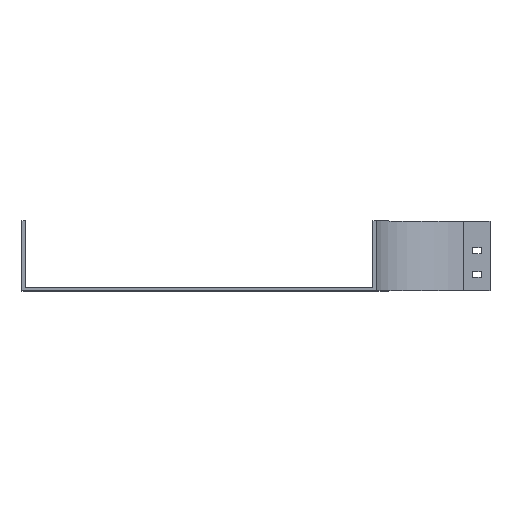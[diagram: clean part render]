
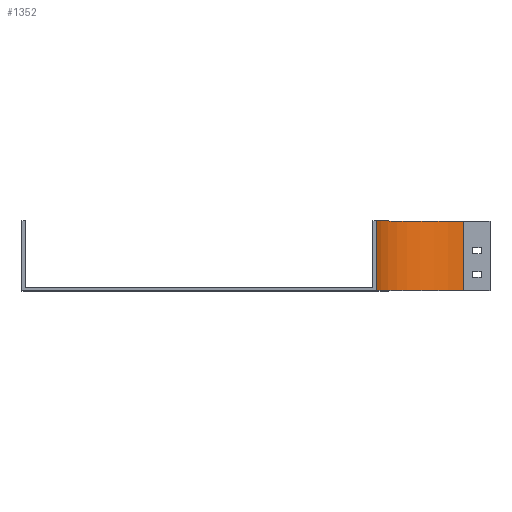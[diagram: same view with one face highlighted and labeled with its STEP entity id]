
A CAD part, top view. The second image highlights one B-rep face of the part: STEP entity #1352.
In plain terms, the highlighted cylindrical face has radius 100 mm (diameter 200 mm), a partial arc.
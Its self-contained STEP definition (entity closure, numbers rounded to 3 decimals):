
#102 = DIRECTION ( 'NONE',  ( 0., 0., -1. ) ) ;
#115 = EDGE_CURVE ( 'NONE', #2276, #1049, #1825, .T. ) ;
#506 = ORIENTED_EDGE ( 'NONE', *, *, #115, .T. ) ;
#507 = CARTESIAN_POINT ( 'NONE',  ( 0., 79., -100. ) ) ;
#517 = CYLINDRICAL_SURFACE ( 'NONE', #1932, 100. ) ;
#527 = CARTESIAN_POINT ( 'NONE',  ( 0., 79., 0. ) ) ;
#566 = CARTESIAN_POINT ( 'NONE',  ( -100., 79., 0. ) ) ;
#679 = ORIENTED_EDGE ( 'NONE', *, *, #1674, .F. ) ;
#694 = CIRCLE ( 'NONE', #2601, 100. ) ;
#775 = EDGE_CURVE ( 'NONE', #2276, #1990, #2478, .T. ) ;
#805 = LINE ( 'NONE', #1623, #2239 ) ;
#907 = CARTESIAN_POINT ( 'NONE',  ( -100., 0., 0. ) ) ;
#964 = DIRECTION ( 'NONE',  ( 0., 0., -1. ) ) ;
#1001 = DIRECTION ( 'NONE',  ( 0., -1., 0. ) ) ;
#1017 = ORIENTED_EDGE ( 'NONE', *, *, #1355, .T. ) ;
#1049 = VERTEX_POINT ( 'NONE', #907 ) ;
#1175 = ORIENTED_EDGE ( 'NONE', *, *, #775, .F. ) ;
#1238 = CARTESIAN_POINT ( 'NONE',  ( 0., 0., -100. ) ) ;
#1352 = ADVANCED_FACE ( 'NONE', ( #2447 ), #517, .F. ) ;
#1355 = EDGE_CURVE ( 'NONE', #1049, #1618, #694, .T. ) ;
#1364 = DIRECTION ( 'NONE',  ( 0., -1., 0. ) ) ;
#1390 = DIRECTION ( 'NONE',  ( 0., -1., 0. ) ) ;
#1414 = DIRECTION ( 'NONE',  ( 0., -1., 0. ) ) ;
#1591 = EDGE_LOOP ( 'NONE', ( #1017, #679, #1175, #506 ) ) ;
#1618 = VERTEX_POINT ( 'NONE', #1238 ) ;
#1623 = CARTESIAN_POINT ( 'NONE',  ( 0., 79., -100. ) ) ;
#1674 = EDGE_CURVE ( 'NONE', #1990, #1618, #805, .T. ) ;
#1776 = CARTESIAN_POINT ( 'NONE',  ( 0., 79., 0. ) ) ;
#1817 = DIRECTION ( 'NONE',  ( 0., 0., -1. ) ) ;
#1825 = LINE ( 'NONE', #566, #2635 ) ;
#1932 = AXIS2_PLACEMENT_3D ( 'NONE', #1776, #1364, #964 ) ;
#1990 = VERTEX_POINT ( 'NONE', #507 ) ;
#2000 = DIRECTION ( 'NONE',  ( 0., -1., 0. ) ) ;
#2239 = VECTOR ( 'NONE', #1414, 1000. ) ;
#2276 = VERTEX_POINT ( 'NONE', #2369 ) ;
#2369 = CARTESIAN_POINT ( 'NONE',  ( -100., 79., 0. ) ) ;
#2447 = FACE_OUTER_BOUND ( 'NONE', #1591, .T. ) ;
#2478 = CIRCLE ( 'NONE', #2757, 100. ) ;
#2601 = AXIS2_PLACEMENT_3D ( 'NONE', #2633, #1390, #1817 ) ;
#2633 = CARTESIAN_POINT ( 'NONE',  ( 0., 0., 0. ) ) ;
#2635 = VECTOR ( 'NONE', #1001, 1000. ) ;
#2757 = AXIS2_PLACEMENT_3D ( 'NONE', #527, #2000, #102 ) ;
